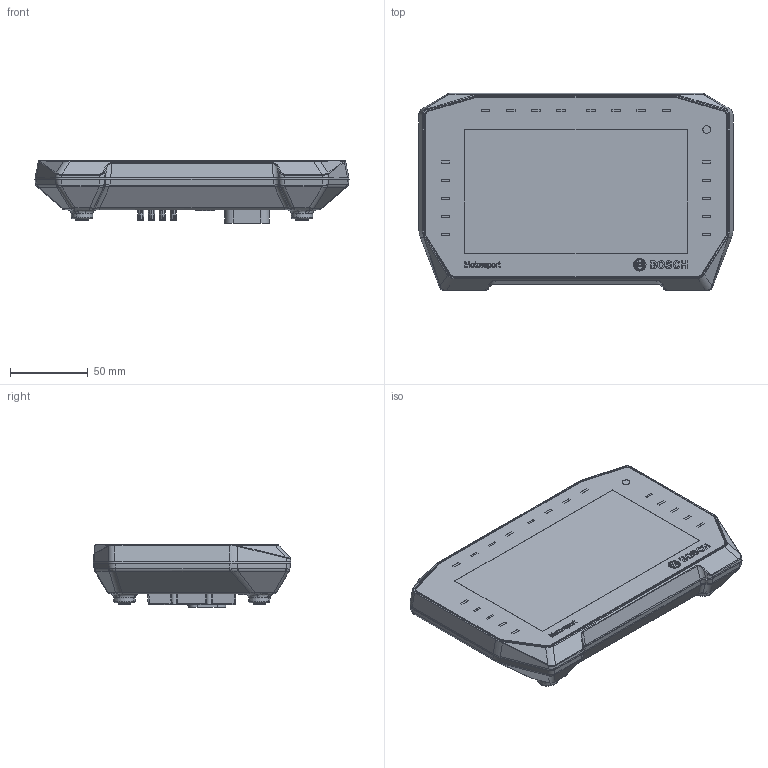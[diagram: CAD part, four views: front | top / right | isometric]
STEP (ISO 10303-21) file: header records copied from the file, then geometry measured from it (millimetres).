
FILE_DESCRIPTION(/* description */ (''),/* implementation_level */ '2;1');
FILE_NAME(/* name */ 'DDU11_MockUp.stp',/* time_stamp */ '2021-12-13T16:24:13+01:00',/* author */ (''),/* organization */ (''),/* preprocessor_version */ 'ST-DEVELOPER v18.1',/* originating_system */ 'SIEMENS PLM Software NX 1988',/* authorisation */ '');
FILE_SCHEMA (('AUTOMOTIVE_DESIGN { 1 0 10303 214 3 1 1 1 }'));
Products named in the file (1): REB14B04134822jm
Bounding box: 202.74 x 127.56 x 40.3 mm (x, y, z)
Volume: 708894.8 mm3; surface area: 114697.5 mm2
Topology: 2 solids, 8 shells, 2367 faces, 6952 edges, 4497 vertices
Faces by surface type: plane 1036, cylinder 636, bspline 472, cone 114, torus 74, sphere 19, revolution 16
Full cylindrical faces by diameter (mm): 5 x1
Entity records: 105754 total; most frequent: CARTESIAN_POINT 40002, ORIENTED_EDGE 13868, DIRECTION 9796, EDGE_CURVE 6934, VERTEX_POINT 4497, AXIS2_PLACEMENT_3D 3602, B_SPLINE_CURVE_WITH_KNOTS 2620, LINE 2576
